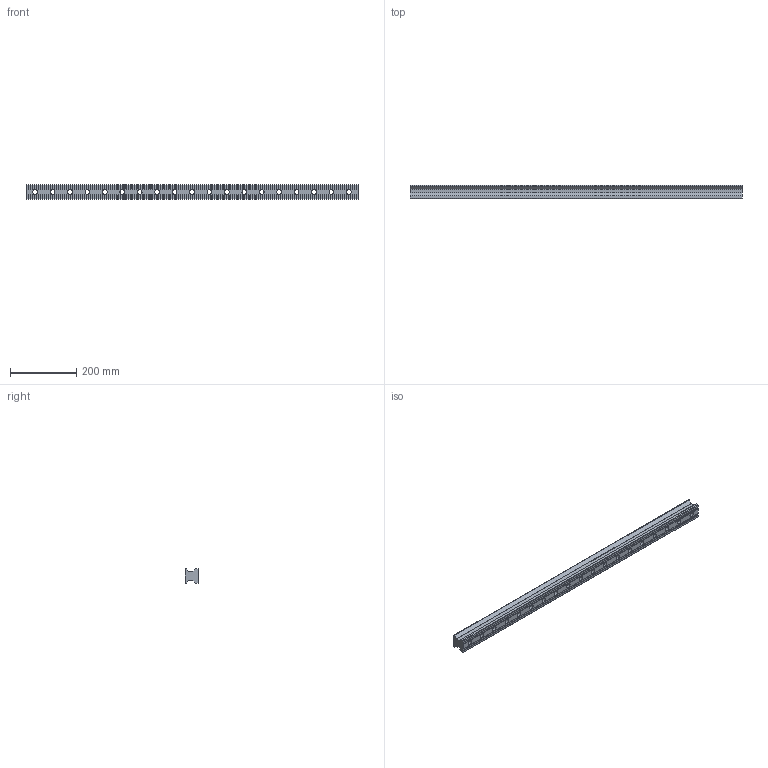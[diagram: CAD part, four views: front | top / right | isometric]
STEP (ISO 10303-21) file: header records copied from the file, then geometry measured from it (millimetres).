
FILE_DESCRIPTION(/* description */ (''),/* implementation_level */ '2;1');
FILE_NAME(/* name */ 'URR45R1000H_GW202603049642.stp',/* time_stamp */ '2026-03-30T23:06:41+08:00',/* author */ ('user'),/* organization */ (''),/* preprocessor_version */ 'ST-DEVELOPER v20.1',/* originating_system */ 'Autodesk Inventor 2026',/* authorisation */ '');
FILE_SCHEMA (('AUTOMOTIVE_DESIGN { 1 0 10303 214 3 1 1 }'));
Products named in the file (2): URR45R1000H_GW202603049642; UR45-1
Assembly tree (1 placements, depth 2):
  URR45R1000H_GW202603049642
    UR45-1
Bounding box: 1000 x 40 x 45 mm (x, y, z)
Volume: 1249527.4 mm3; surface area: 220245.6 mm2
Topology: 1 solids, 1 shells, 214 faces, 564 edges, 376 vertices
Faces by surface type: plane 111, bspline 57, cylinder 46
Full cylindrical faces by diameter (mm): 14 x19, 20 x19
Entity records: 7962 total; most frequent: CARTESIAN_POINT 2798, ORIENTED_EDGE 1128, DIRECTION 866, EDGE_CURVE 564, VERTEX_POINT 376, LINE 358, VECTOR 358, EDGE_LOOP 276
